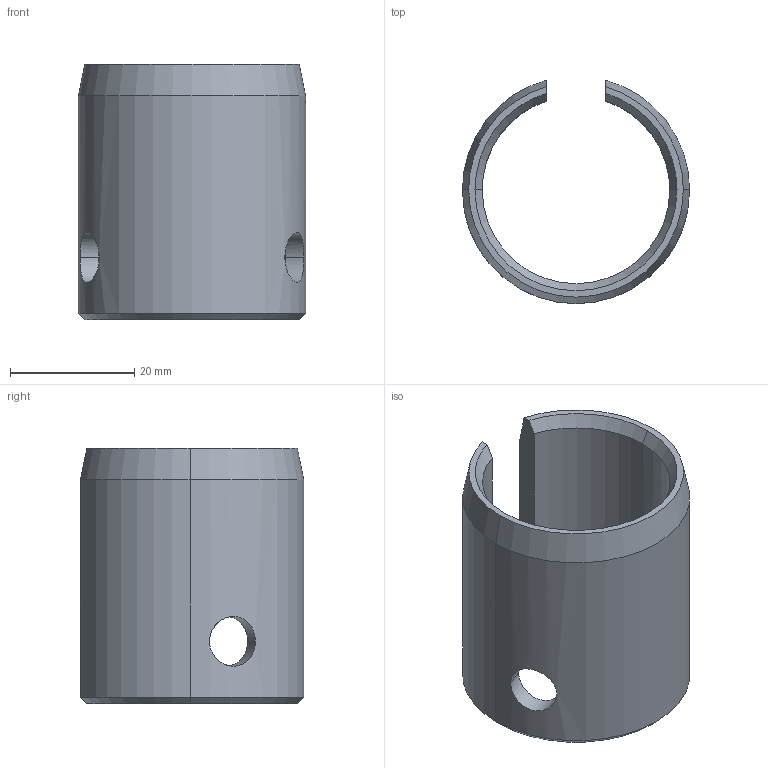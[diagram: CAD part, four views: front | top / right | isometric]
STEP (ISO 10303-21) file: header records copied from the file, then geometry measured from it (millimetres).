
FILE_DESCRIPTION (( 'STEP AP203' ), '1' );
FILE_NAME ('KBSH053P19.STEP', '2023-08-01T05:19:42', ( '' ), ( '' ), 'SwSTEP 2.0', 'SolidWorks 2012', '' );
FILE_SCHEMA (( 'CONFIG_CONTROL_DESIGN' ));
Length unit declared in the file: millimetre
Products named in the file (1): KBSH053P19
Bounding box: 36.51 x 35.88 x 41 mm (x, y, z)
Volume: 11542.5 mm3; surface area: 8313 mm2
Topology: 1 solids, 1 shells, 26 faces, 64 edges, 40 vertices
Faces by surface type: cone 12, cylinder 10, plane 4
Entity records: 1101 total; most frequent: CARTESIAN_POINT 411, ORIENTED_EDGE 128, DIRECTION 126, EDGE_CURVE 64, AXIS2_PLACEMENT_3D 51, VERTEX_POINT 40, EDGE_LOOP 30, FACE_OUTER_BOUND 26
